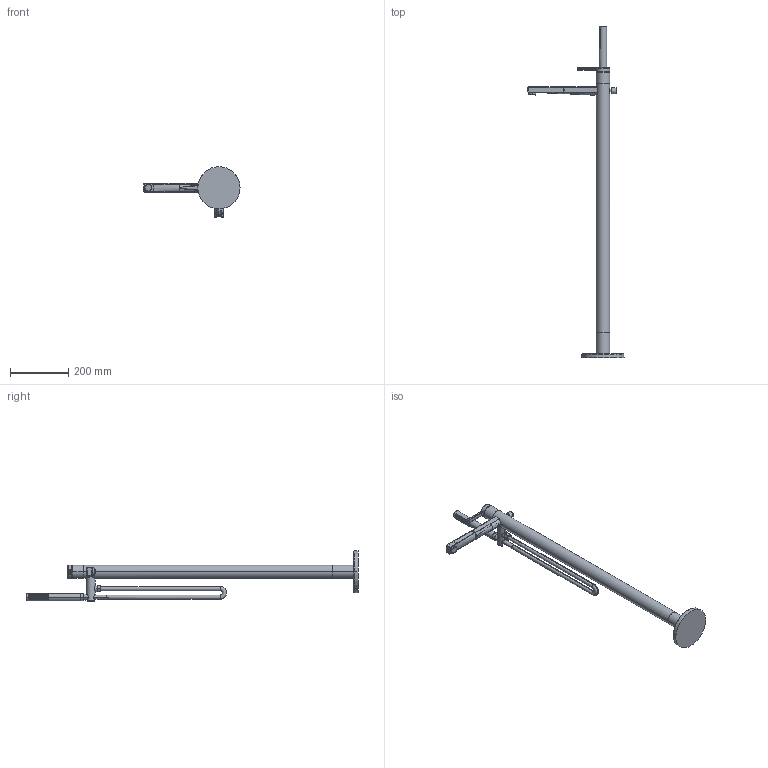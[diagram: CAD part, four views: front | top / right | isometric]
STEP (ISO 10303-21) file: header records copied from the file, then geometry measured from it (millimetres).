
FILE_DESCRIPTION((''),'2;1');
FILE_NAME('FREESTAND_ASM_SW0005','2023-10-11T15:54:26',('YY993'),(''),'CREO PARAMETRIC BY PTC INC, 2022244','CREO PARAMETRIC BY PTC INC, 2022244','');
FILE_SCHEMA(('CONFIG_CONTROL_DESIGN'));
Products named in the file (1): FREESTAND_ASM_SW0005
Bounding box: 330.5 x 1142.54 x 174 mm (x, y, z)
Volume: 2245004.3 mm3; surface area: 297513.1 mm2
Topology: 1 solids, 1 shells, 1095 faces, 2397 edges, 1470 vertices
Faces by surface type: cylinder 444, bspline 179, plane 168, torus 152, cone 137, sphere 14, extrusion 1
Entity records: 111068 total; most frequent: CARTESIAN_POINT 88980, ORIENTED_EDGE 4766, DIRECTION 3986, EDGE_CURVE 2383, AXIS2_PLACEMENT_3D 1645, VERTEX_POINT 1470, EDGE_LOOP 1283, FACE_OUTER_BOUND 1095
